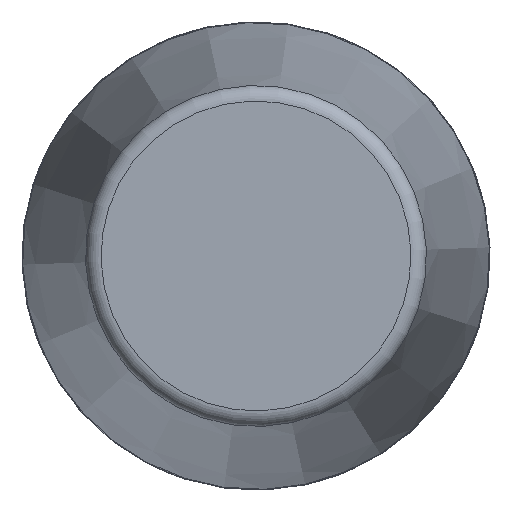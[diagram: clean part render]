
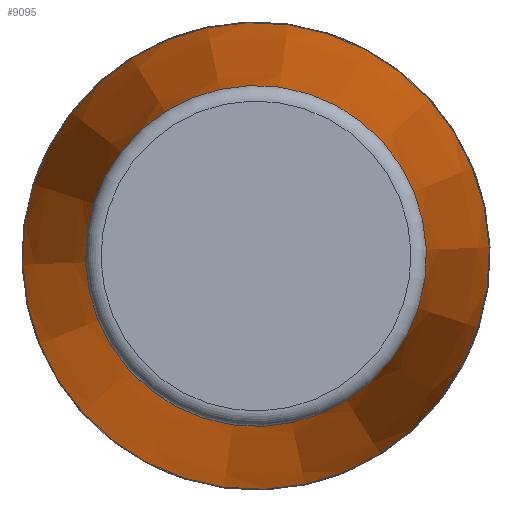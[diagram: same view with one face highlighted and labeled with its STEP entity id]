
A CAD part, front view. The second image highlights one B-rep face of the part: STEP entity #9095.
In plain terms, the highlighted conical face has half-angle 5.666 degrees and reference radius 38.682 mm.
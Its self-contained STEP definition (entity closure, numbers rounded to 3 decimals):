
#2594=FACE_BOUND('',#3682,.T.);
#3113=FACE_OUTER_BOUND('',#3681,.T.);
#3681=EDGE_LOOP('',(#8578,#8579));
#3682=EDGE_LOOP('',(#8580));
#3707=CIRCLE('',#9411,32.768);
#3709=CIRCLE('',#9414,44.863);
#3710=CIRCLE('',#9415,44.863);
#4603=VERTEX_POINT('',#17437);
#4605=VERTEX_POINT('',#17442);
#4606=VERTEX_POINT('',#17443);
#5929=EDGE_CURVE('',#4603,#4603,#3707,.T.);
#5931=EDGE_CURVE('',#4605,#4606,#3709,.T.);
#5932=EDGE_CURVE('',#4606,#4605,#3710,.T.);
#8578=ORIENTED_EDGE('',*,*,#5931,.T.);
#8579=ORIENTED_EDGE('',*,*,#5932,.T.);
#8580=ORIENTED_EDGE('',*,*,#5929,.F.);
#8594=CONICAL_SURFACE('',#9413,38.682,0.099);
#9095=ADVANCED_FACE('',(#3113,#2594),#8594,.T.);
#9411=AXIS2_PLACEMENT_3D('',#17438,#10625,#10626);
#9413=AXIS2_PLACEMENT_3D('',#17441,#10629,#10630);
#9414=AXIS2_PLACEMENT_3D('',#17444,#10631,#10632);
#9415=AXIS2_PLACEMENT_3D('',#17445,#10633,#10634);
#10625=DIRECTION('center_axis',(1.,0.,0.));
#10626=DIRECTION('ref_axis',(0.,0.,1.));
#10629=DIRECTION('center_axis',(-1.,0.,0.));
#10630=DIRECTION('ref_axis',(0.,0.,-1.));
#10631=DIRECTION('center_axis',(1.,0.,0.));
#10632=DIRECTION('ref_axis',(0.,0.,-1.));
#10633=DIRECTION('center_axis',(1.,0.,0.));
#10634=DIRECTION('ref_axis',(0.,0.,-1.));
#17437=CARTESIAN_POINT('',(147.796,0.,-32.768));
#17438=CARTESIAN_POINT('Origin',(147.796,0.,
0.));
#17441=CARTESIAN_POINT('Origin',(88.189,0.,0.));
#17442=CARTESIAN_POINT('',(25.879,0.,-44.863));
#17443=CARTESIAN_POINT('',(25.879,0.,44.863));
#17444=CARTESIAN_POINT('Origin',(25.879,0.,0.));
#17445=CARTESIAN_POINT('Origin',(25.879,0.,0.));
